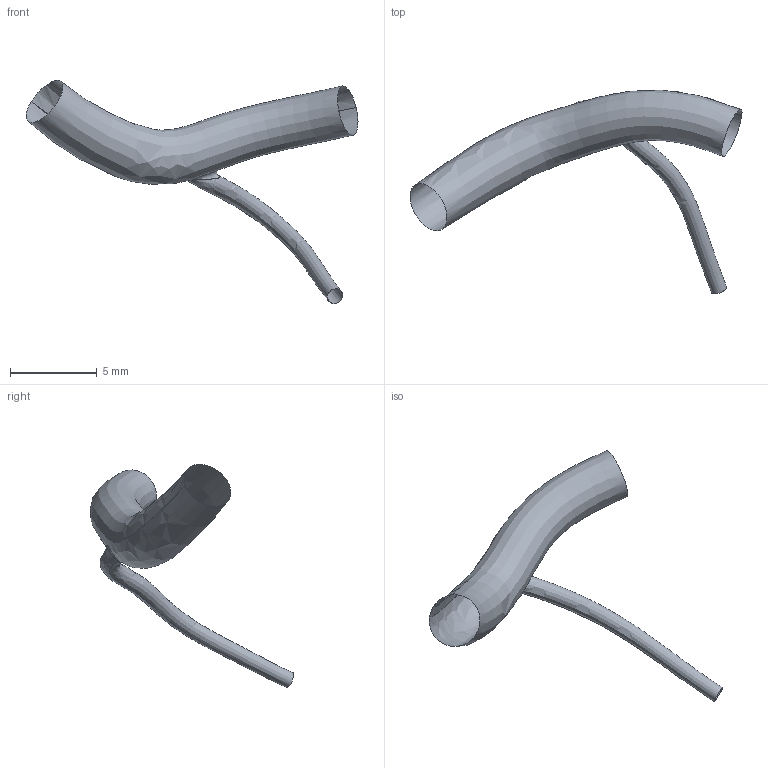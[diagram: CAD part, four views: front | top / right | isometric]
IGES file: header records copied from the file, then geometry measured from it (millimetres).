
Global section: file name: C:\Documents and Settings\Administrator\Desktop\FDA-Pig\Domestic RCA\Pig_000138\rv1.ed.igs; native system: Rhinoceros ( May 19 2006 ); preprocessor: Trout Lake IGES 012 May 19 2006; date: 111205.185957; units: centimetre
Bounding box: 19.18 x 11.76 x 12.88 mm (x, y, z)
Surface area: 241.2 mm2 (no closed solid volume)
Topology: 0 solids, 0 shells, 3 faces, 39 edges, 36 vertices
Faces by surface type: bspline 3
